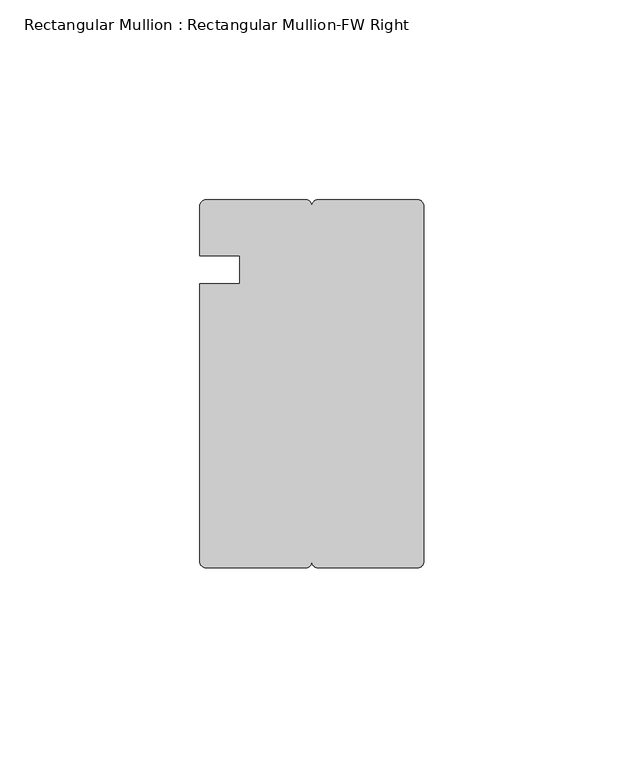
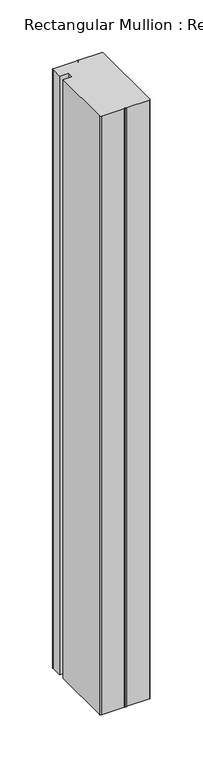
"""IFC4 building model written with IfcOpenShell, lengths in millimetres: member geometry, Rectangular Mullion : Rectangular Mullion-FW Right."""

from ifc_helpers import new_model, si_unit, frame, origin, place, context, project, spatial, circle_curve, source, transform, mapped, element, save
from ifc_brep_helpers import plane_surface, cylinder_surface, advanced_brep


def rectangular_mullion_rectangular_mullion_fw_right_08d4080d(model_context):
    return source(origin(), model_context, "Body", "AdvancedBrep", [
        advanced_brep(
        [(-1.4798969, 0.0, 0.0), (-26.5201031, 0.0, 0.0), (-28.0, -1.4798969, 0.0), (-29.4798969, 0.0, 0.0), (-54.5201031, 0.0, 0.0), (-56.0, -1.4798969, 0.0), (-56.0, -14.0, 0.0), (-46.0, -14.0, 0.0), (-46.0, -21.0, 0.0), (-56.0, -21.0, 0.0), (-56.0, -90.5201031, 0.0), (-54.5201031, -92.0, 0.0), (-29.4798969, -92.0, 0.0), (-28.0, -90.5201031, 0.0), (-26.5201031, -92.0, 0.0), (-1.4798969, -92.0, 0.0), (0.0, -90.5201031, 0.0), (0.0, -1.4798969, 0.0), (-1.4798969, 0.0, -700.0), (0.0, -1.4798969, -700.0), (0.0, -90.5201031, -700.0), (-1.4798969, -92.0, -700.0), (-26.5201031, -92.0, -700.0), (-28.0, -90.5201031, -700.0), (-29.4798969, -92.0, -700.0), (-54.5201031, -92.0, -700.0), (-56.0, -90.5201031, -700.0), (-56.0, -21.0, -700.0), (-46.0, -21.0, -700.0), (-46.0, -14.0, -700.0), (-56.0, -14.0, -700.0), (-56.0, -1.4798969, -700.0), (-54.5201031, 0.0, -700.0), (-29.4798969, 0.0, -700.0), (-28.0, -1.4798969, -700.0), (-26.5201031, 0.0, -700.0)],
        [
            (0, 1),
            (1, 2, circle_curve(frame((-26.5201031, -1.4798969, 0.0), z_axis=(0.0, 0.0, 1.0), x_axis=(1.0, 0.0, 0.0)), 1.4798969)),
            (2, 3, circle_curve(frame((-29.4798969, -1.4798969, 0.0), z_axis=(0.0, 0.0, 1.0), x_axis=(1.0, 0.0, 0.0)), 1.4798969)),
            (3, 4),
            (4, 5, circle_curve(frame((-54.5201031, -1.4798969, 0.0), z_axis=(0.0, 0.0, 1.0), x_axis=(1.0, 0.0, 0.0)), 1.4798969)),
            (5, 6),
            (6, 7),
            (7, 8),
            (8, 9),
            (9, 10),
            (10, 11, circle_curve(frame((-54.5201031, -90.5201031, 0.0), z_axis=(0.0, 0.0, 1.0), x_axis=(1.0, 0.0, 0.0)), 1.4798969)),
            (11, 12),
            (12, 13, circle_curve(frame((-29.4798969, -90.5201031, 0.0), z_axis=(0.0, 0.0, 1.0), x_axis=(1.0, 0.0, 0.0)), 1.4798969)),
            (13, 14, circle_curve(frame((-26.5201031, -90.5201031, 0.0), z_axis=(0.0, 0.0, 1.0), x_axis=(1.0, 0.0, 0.0)), 1.4798969)),
            (14, 15),
            (15, 16, circle_curve(frame((-1.4798969, -90.5201031, 0.0), z_axis=(0.0, 0.0, 1.0), x_axis=(1.0, 0.0, 0.0)), 1.4798969)),
            (16, 17),
            (17, 0, circle_curve(frame((-1.4798969, -1.4798969, 0.0), z_axis=(0.0, 0.0, 1.0), x_axis=(1.0, 0.0, 0.0)), 1.4798969)),
            (18, 19, circle_curve(frame((-1.4798969, -1.4798969, -700.0), z_axis=(0.0, 0.0, -1.0), x_axis=(1.0, 0.0, 0.0)), 1.4798969)),
            (19, 20),
            (20, 21, circle_curve(frame((-1.4798969, -90.5201031, -700.0), z_axis=(0.0, 0.0, -1.0), x_axis=(1.0, 0.0, 0.0)), 1.4798969)),
            (21, 22),
            (22, 23, circle_curve(frame((-26.5201031, -90.5201031, -700.0), z_axis=(0.0, 0.0, -1.0), x_axis=(1.0, 0.0, 0.0)), 1.4798969)),
            (23, 24, circle_curve(frame((-29.4798969, -90.5201031, -700.0), z_axis=(0.0, 0.0, -1.0), x_axis=(1.0, 0.0, 0.0)), 1.4798969)),
            (24, 25),
            (25, 26, circle_curve(frame((-54.5201031, -90.5201031, -700.0), z_axis=(0.0, 0.0, -1.0), x_axis=(1.0, 0.0, 0.0)), 1.4798969)),
            (26, 27),
            (27, 28),
            (28, 29),
            (29, 30),
            (30, 31),
            (31, 32, circle_curve(frame((-54.5201031, -1.4798969, -700.0), z_axis=(0.0, 0.0, -1.0), x_axis=(1.0, 0.0, 0.0)), 1.4798969)),
            (32, 33),
            (33, 34, circle_curve(frame((-29.4798969, -1.4798969, -700.0), z_axis=(0.0, 0.0, -1.0), x_axis=(1.0, 0.0, 0.0)), 1.4798969)),
            (34, 35, circle_curve(frame((-26.5201031, -1.4798969, -700.0), z_axis=(0.0, 0.0, -1.0), x_axis=(1.0, 0.0, 0.0)), 1.4798969)),
            (35, 18),
            (0, 18),
            (35, 1),
            (34, 2),
            (33, 3),
            (32, 4),
            (31, 5),
            (30, 6),
            (29, 7),
            (28, 8),
            (27, 9),
            (26, 10),
            (25, 11),
            (24, 12),
            (23, 13),
            (22, 14),
            (21, 15),
            (20, 16),
            (19, 17),
        ],
        [
            plane_surface(frame((0.0, -107.1077683, 0.0), z_axis=(0.0, 0.0, 1.0), x_axis=(-1.0, 0.0, 0.0))),
            plane_surface(frame((0.0, -107.1077683, -700.0), z_axis=(0.0, 0.0, -1.0), x_axis=(-1.0, 0.0, 0.0))),
            plane_surface(frame((-1.4798969, 0.0, 0.0), z_axis=(0.0, 1.0, 0.0), x_axis=(0.0, 0.0, -1.0))),
            cylinder_surface(frame((-26.5201031, -1.4798969, 0.0), z_axis=(0.0, 0.0, 1.0), x_axis=(1.0, 0.0, 0.0)), 1.4798969),
            cylinder_surface(frame((-29.4798969, -1.4798969, 0.0), z_axis=(0.0, 0.0, 1.0), x_axis=(1.0, 0.0, 0.0)), 1.4798969),
            plane_surface(frame((-29.4798969, 0.0, 0.0), z_axis=(0.0, 1.0, 0.0), x_axis=(0.0, 0.0, -1.0))),
            cylinder_surface(frame((-54.5201031, -1.4798969, 0.0), z_axis=(0.0, 0.0, 1.0), x_axis=(1.0, 0.0, 0.0)), 1.4798969),
            plane_surface(frame((-56.0, -1.4798969, 0.0), z_axis=(-1.0, 0.0, 0.0), x_axis=(0.0, 0.0, -1.0))),
            plane_surface(frame((-56.0, -14.0, 0.0), z_axis=(0.0, -1.0, 0.0), x_axis=(0.0, 0.0, -1.0))),
            plane_surface(frame((-46.0, -14.0, 0.0), z_axis=(-1.0, 0.0, 0.0), x_axis=(0.0, 0.0, -1.0))),
            plane_surface(frame((-46.0, -21.0, 0.0), z_axis=(0.0, 1.0, 0.0), x_axis=(0.0, 0.0, -1.0))),
            plane_surface(frame((-56.0, -21.0, 0.0), z_axis=(-1.0, 0.0, 0.0), x_axis=(0.0, 0.0, -1.0))),
            cylinder_surface(frame((-54.5201031, -90.5201031, 0.0), z_axis=(0.0, 0.0, 1.0), x_axis=(1.0, 0.0, 0.0)), 1.4798969),
            plane_surface(frame((-54.5201031, -92.0, 0.0), z_axis=(0.0, -1.0, 0.0), x_axis=(0.0, 0.0, -1.0))),
            cylinder_surface(frame((-29.4798969, -90.5201031, 0.0), z_axis=(0.0, 0.0, 1.0), x_axis=(1.0, 0.0, 0.0)), 1.4798969),
            cylinder_surface(frame((-26.5201031, -90.5201031, 0.0), z_axis=(0.0, 0.0, 1.0), x_axis=(1.0, 0.0, 0.0)), 1.4798969),
            plane_surface(frame((-26.5201031, -92.0, 0.0), z_axis=(0.0, -1.0, 0.0), x_axis=(0.0, 0.0, -1.0))),
            cylinder_surface(frame((-1.4798969, -90.5201031, 0.0), z_axis=(0.0, 0.0, 1.0), x_axis=(1.0, 0.0, 0.0)), 1.4798969),
            plane_surface(frame((0.0, -90.5201031, 0.0), z_axis=(1.0, 0.0, 0.0), x_axis=(0.0, 0.0, -1.0))),
            cylinder_surface(frame((-1.4798969, -1.4798969, 0.0), z_axis=(0.0, 0.0, 1.0), x_axis=(1.0, 0.0, 0.0)), 1.4798969),
        ],
        [
            (0, [[1, 2, 3, 4, 5, 6, 7, 8, 9, 10, 11, 12, 13, 14, 15, 16, 17, 18]]),
            (1, [[19, 20, 21, 22, 23, 24, 25, 26, 27, 28, 29, 30, 31, 32, 33, 34, 35, 36]]),
            (2, [[-1, 37, -36, 38]]),
            (3, [[-2, -38, -35, 39]]),
            (4, [[-3, -39, -34, 40]]),
            (5, [[-4, -40, -33, 41]]),
            (6, [[-5, -41, -32, 42]]),
            (7, [[-6, -42, -31, 43]]),
            (8, [[-7, -43, -30, 44]]),
            (9, [[-8, -44, -29, 45]]),
            (10, [[-9, -45, -28, 46]]),
            (11, [[-10, -46, -27, 47]]),
            (12, [[-11, -47, -26, 48]]),
            (13, [[-12, -48, -25, 49]]),
            (14, [[-13, -49, -24, 50]]),
            (15, [[-14, -50, -23, 51]]),
            (16, [[-15, -51, -22, 52]]),
            (17, [[-16, -52, -21, 53]]),
            (18, [[-17, -53, -20, 54]]),
            (19, [[-18, -54, -19, -37]]),
        ],
    ),
    ])


if __name__ == "__main__":
    model = new_model("IFC4")
    model_context = context("Model", 3, world=origin())
    ifc_project = project(units=[si_unit("LENGTHUNIT", "METRE", prefix="MILLI")], contexts=[model_context])
    site = spatial("IfcSite", under=ifc_project)
    building = spatial("IfcBuilding", under=site)
    placement = place(None, origin())
    rectangular_mullion_rectangular_mullion_fw_right_shape = rectangular_mullion_rectangular_mullion_fw_right_08d4080d(model_context)
    element("IfcMember", 1, ObjectType="Rectangular Mullion : Rectangular Mullion-FW Right", at=placement, inside=building, context=model_context, shape_type="MappedRepresentation", body=[
        mapped(rectangular_mullion_rectangular_mullion_fw_right_shape, transform((0.0, 0.0, 0.0), x_axis=(1.0, 0.0, 0.0), y_axis=(0.0, 1.0, 0.0), z_axis=(0.0, 0.0, 1.0))),
    ])
    save(model, "model.ifc")
